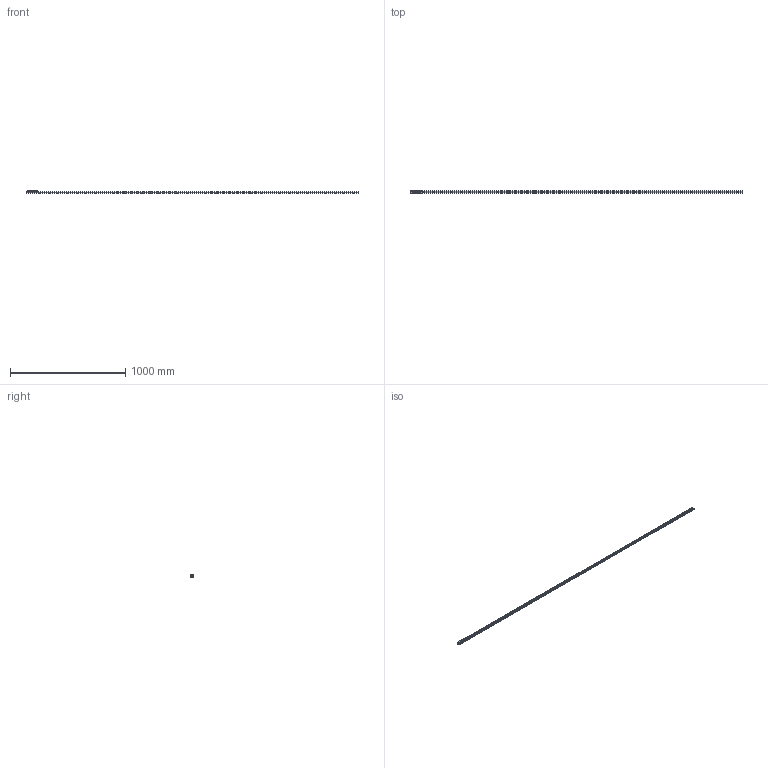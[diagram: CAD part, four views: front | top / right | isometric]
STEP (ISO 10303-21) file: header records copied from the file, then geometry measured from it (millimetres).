
FILE_DESCRIPTION( ( 'STEP AP214' ), '1' );
FILE_NAME( 'p:/temp/worker_22/temp/exporttempdir_3544_362_tYbvR/format_0/TEN26-2880-CEN26-92.stp', '2020-05-08T18:54:12', ( 'License CC BY-ND 4.0' ), ( 'CADENAS' ), ' ', 'PARTsolutions', ' ' );
FILE_SCHEMA( ( 'AUTOMOTIVE_DESIGN { 1 0 10303 214 1 1 1 1 }' ) );
Length unit declared in the file: millimetre
Products named in the file (6): TEN26-2880-CEN26-92; _TEN 26-2880; _CEN26-92_1; _RLN26(11.2_M5); _RLA26(11.2_M5); _LAN-26
Assembly tree (8 placements, depth 2):
  TEN26-2880-CEN26-92
    _TEN 26-2880
    _CEN26-92_1
    _RLN26(11.2_M5)  x2
    _RLA26(11.2_M5)
    _LAN-26  x3
Bounding box: 2880 x 26 x 22 mm (x, y, z)
Volume: 310632.9 mm3; surface area: 263400.9 mm2
Topology: 8 solids, 8 shells, 269 faces, 609 edges, 383 vertices
Faces by surface type: plane 131, cylinder 105, cone 24, bspline 9
Full cylindrical faces by diameter (mm): 2.5 x2, 4.134 x5, 4.5 x3, 5 x6, 6.5 x36, 9.3 x3, 11.2 x6, 11.6 x6, 15.7 x6, 16.7 x6
Entity records: 6770 total; most frequent: CARTESIAN_POINT 965, DIRECTION 928, ORIENTED_EDGE 678, AXIS2_PLACEMENT_3D 400, EDGE_LOOP 376, EDGE_CURVE 339, VERTEX_POINT 269, FACE_OUTER_BOUND 256
